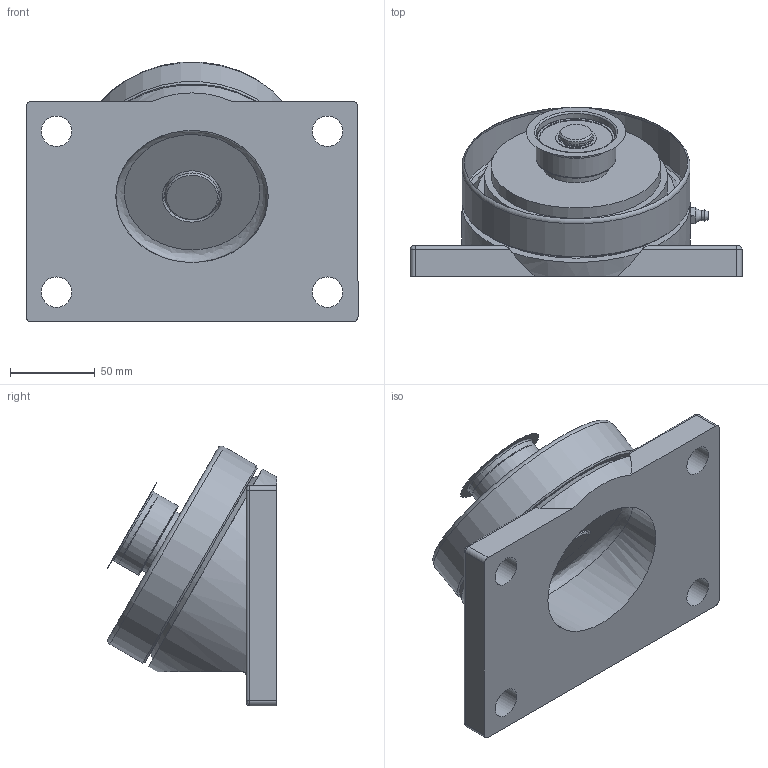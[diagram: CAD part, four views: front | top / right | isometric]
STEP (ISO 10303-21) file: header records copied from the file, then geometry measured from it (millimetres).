
FILE_DESCRIPTION(/* description */ (''),/* implementation_level */ '2;1');
FILE_NAME(/* name */ 'Z:\35-j-ito\製品モデル\SW-I\SW-100-I\HP用\SW-100-I.stp',/* time_stamp */ '2022-04-04T17:41:12+09:00',/* author */ ('j-ito'),/* organization */ (''),/* preprocessor_version */ 'ST-DEVELOPER v18.1',/* originating_system */ 'Autodesk Inventor 2022',/* authorisation */ '');
FILE_SCHEMA (('AUTOMOTIVE_DESIGN { 1 0 10303 214 3 1 1 }'));
Length unit declared in the file: millimetre
Products named in the file (3): SW-100-I; SW-100-I_1; グリスニップル
Assembly tree (2 placements, depth 2):
  SW-100-I
    SW-100-I_1
    グリスニップル
Bounding box: 196 x 99.96 x 153.27 mm (x, y, z)
Volume: 975065.6 mm3; surface area: 147974.7 mm2
Topology: 2 solids, 3 shells, 123 faces, 261 edges, 166 vertices
Faces by surface type: cylinder 42, plane 41, cone 25, torus 9, bspline 6
Full cylindrical faces by diameter (mm): 1.5 x1, 3.5 x1, 8 x1, 18 x4, 19 x1, 20 x3, 24 x2, 26 x2, 32 x1, 35 x1, 40 x1, 43 x2, 47 x1, 47.1 x1, 50 x1, 65 x1, 100.1 x1, 108 x1, 109 x1, 135 x1
Entity records: 3904 total; most frequent: CARTESIAN_POINT 968, DIRECTION 621, ORIENTED_EDGE 518, AXIS2_PLACEMENT_3D 271, EDGE_CURVE 259, VERTEX_POINT 166, EDGE_LOOP 159, CIRCLE 138
